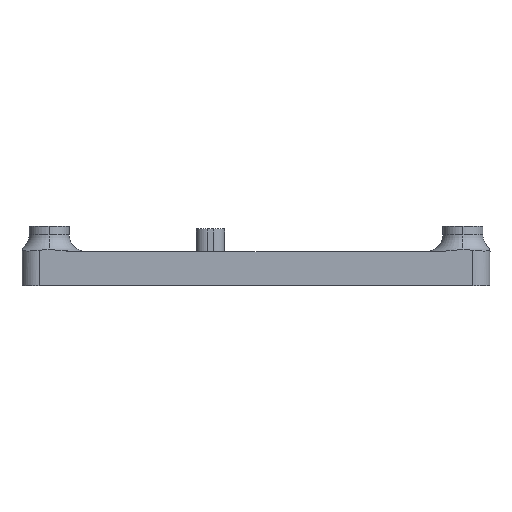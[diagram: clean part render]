
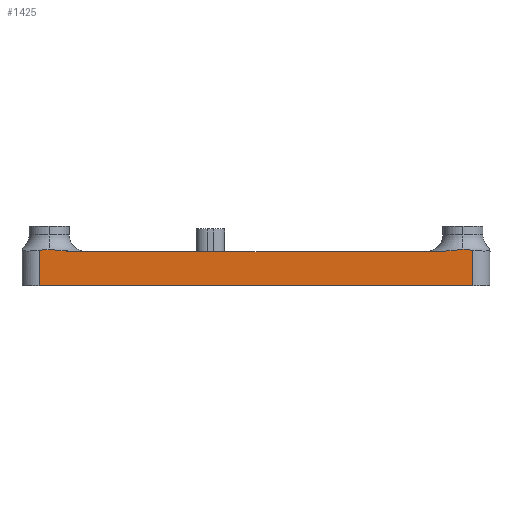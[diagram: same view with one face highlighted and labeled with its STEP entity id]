
A CAD part, left-side view. The second image highlights one B-rep face of the part: STEP entity #1425.
In plain terms, the highlighted planar face has unit normal (-1, 0, 0).
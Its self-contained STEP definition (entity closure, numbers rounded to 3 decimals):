
#33=DIRECTION('',(0.,-1.,0.));
#34=VECTOR('',#33,76.);
#35=CARTESIAN_POINT('',(-67.,38.,-2.));
#36=LINE('',#35,#34);
#169=DIRECTION('',(0.,0.,1.));
#170=VECTOR('',#169,6.252);
#171=CARTESIAN_POINT('',(-67.,-38.,-2.));
#172=LINE('',#171,#170);
#173=DIRECTION('',(0.,0.,1.));
#174=VECTOR('',#173,6.252);
#175=CARTESIAN_POINT('',(-67.,38.,-2.));
#176=LINE('',#175,#174);
#337=DIRECTION('',(0.,-1.,0.));
#338=VECTOR('',#337,64.193);
#339=CARTESIAN_POINT('',(-67.,32.096,4.));
#340=LINE('',#339,#338);
#621=CARTESIAN_POINT('',(-67.,36.25,4.402));
#622=CARTESIAN_POINT('',(-67.,35.99,4.402));
#623=CARTESIAN_POINT('',(-67.,35.456,4.378));
#624=CARTESIAN_POINT('',(-67.,34.6,4.27));
#625=CARTESIAN_POINT('',(-67.,33.744,4.136));
#626=CARTESIAN_POINT('',(-67.,32.893,4.028));
#627=CARTESIAN_POINT('',(-67.,32.358,4.));
#628=CARTESIAN_POINT('',(-67.,32.096,4.));
#658=CARTESIAN_POINT('',(-67.,38.,4.252));
#659=CARTESIAN_POINT('',(-67.,37.695,4.296));
#660=CARTESIAN_POINT('',(-67.,37.1,4.374));
#661=CARTESIAN_POINT('',(-67.,36.529,4.402));
#662=CARTESIAN_POINT('',(-67.,36.25,4.402));
#873=CARTESIAN_POINT('',(-67.,-32.096,4.));
#874=CARTESIAN_POINT('',(-67.,-32.358,4.));
#875=CARTESIAN_POINT('',(-67.,-32.892,4.028));
#876=CARTESIAN_POINT('',(-67.,-33.744,4.136));
#877=CARTESIAN_POINT('',(-67.,-34.601,4.27));
#878=CARTESIAN_POINT('',(-67.,-35.458,4.378));
#879=CARTESIAN_POINT('',(-67.,-35.99,4.402));
#880=CARTESIAN_POINT('',(-67.,-36.25,4.402));
#892=CARTESIAN_POINT('',(-67.,-38.,4.252));
#902=CARTESIAN_POINT('',(-67.,-36.25,4.402));
#903=CARTESIAN_POINT('',(-67.,-36.53,4.402));
#904=CARTESIAN_POINT('',(-67.,-37.101,4.374));
#905=CARTESIAN_POINT('',(-67.,-37.696,4.296));
#906=CARTESIAN_POINT('',(-67.,-38.,4.252));
#1090=CARTESIAN_POINT('',(-67.,-38.,-2.));
#1092=VERTEX_POINT('',#1090);
#1101=CARTESIAN_POINT('',(-67.,38.,-2.));
#1103=VERTEX_POINT('',#1101);
#1217=VERTEX_POINT('',#658);
#1218=VERTEX_POINT('',#662);
#1220=VERTEX_POINT('',#892);
#1222=VERTEX_POINT('',#902);
#1233=CARTESIAN_POINT('',(-67.,32.097,4.));
#1235=VERTEX_POINT('',#1233);
#1247=CARTESIAN_POINT('',(-67.,-32.097,4.));
#1248=VERTEX_POINT('',#1247);
#1404=CARTESIAN_POINT('',(-67.,41.,0.));
#1405=DIRECTION('',(-1.,0.,0.));
#1406=DIRECTION('',(0.,-1.,0.));
#1407=AXIS2_PLACEMENT_3D('',#1404,#1405,#1406);
#1408=PLANE('',#1407);
#1410=ORIENTED_EDGE('',*,*,#1409,.T.);
#1412=ORIENTED_EDGE('',*,*,#1411,.T.);
#1414=ORIENTED_EDGE('',*,*,#1413,.T.);
#1415=ORIENTED_EDGE('',*,*,#1394,.F.);
#1416=ORIENTED_EDGE('',*,*,#1288,.F.);
#1418=ORIENTED_EDGE('',*,*,#1417,.T.);
#1420=ORIENTED_EDGE('',*,*,#1419,.T.);
#1422=ORIENTED_EDGE('',*,*,#1421,.T.);
#1423=EDGE_LOOP('',(#1410,#1412,#1414,#1415,#1416,#1418,#1420,#1422));
#1424=FACE_OUTER_BOUND('',#1423,.F.);
#1425=ADVANCED_FACE('',(#1424),#1408,.T.);
#629=B_SPLINE_CURVE_WITH_KNOTS('',3,(#621,#622,#623,#624,#625,#626,#627,#628),
.UNSPECIFIED.,.F.,.F.,(4,1,1,1,1,4),(0.,0.2,0.4,0.6,0.8,1.),
.UNSPECIFIED.);
#663=B_SPLINE_CURVE_WITH_KNOTS('',3,(#658,#659,#660,#661,#662),.UNSPECIFIED.,
.F.,.F.,(4,1,4),(0.,0.5,1.),.UNSPECIFIED.);
#881=B_SPLINE_CURVE_WITH_KNOTS('',3,(#873,#874,#875,#876,#877,#878,#879,#880),
.UNSPECIFIED.,.F.,.F.,(4,1,1,1,1,4),(0.,0.2,0.4,0.6,0.8,1.),
.UNSPECIFIED.);
#907=B_SPLINE_CURVE_WITH_KNOTS('',3,(#902,#903,#904,#905,#906),.UNSPECIFIED.,
.F.,.F.,(4,1,4),(0.,0.5,1.),.UNSPECIFIED.);
#1288=EDGE_CURVE('',#1103,#1092,#36,.T.);
#1394=EDGE_CURVE('',#1092,#1220,#172,.T.);
#1409=EDGE_CURVE('',#1235,#1248,#340,.T.);
#1411=EDGE_CURVE('',#1248,#1222,#881,.T.);
#1413=EDGE_CURVE('',#1222,#1220,#907,.T.);
#1417=EDGE_CURVE('',#1103,#1217,#176,.T.);
#1419=EDGE_CURVE('',#1217,#1218,#663,.T.);
#1421=EDGE_CURVE('',#1218,#1235,#629,.T.);
